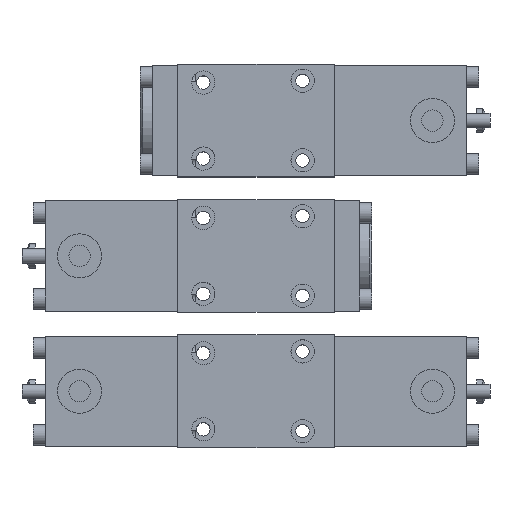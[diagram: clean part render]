
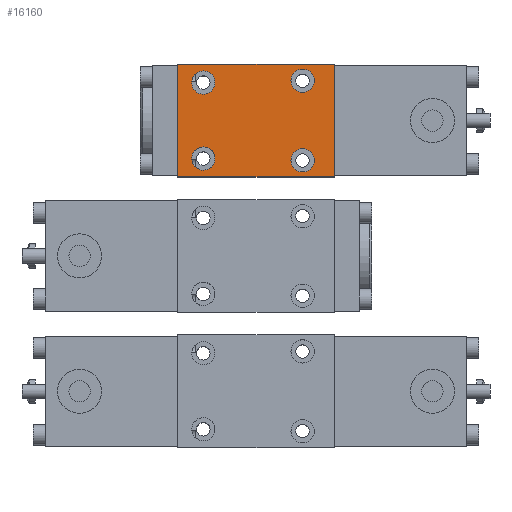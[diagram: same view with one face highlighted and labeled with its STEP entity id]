
A CAD part, top view. The second image highlights one B-rep face of the part: STEP entity #16160.
In plain terms, the highlighted planar face has unit normal (0, 0, 1).
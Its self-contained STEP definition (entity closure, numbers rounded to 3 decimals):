
#16160=ADVANCED_FACE('', (#16170,#16180,#16190,#16200,#16210), #16220, 
.T.);
#52620=AXIS2_PLACEMENT_3D('Ax2Pl3d', #52630, #52640, #52650);
#52660=AXIS2_PLACEMENT_3D('Ax2Pl3d', #52670, #52680, #52690);
#52700=AXIS2_PLACEMENT_3D('Ax2Pl3d', #52710, #52720, #52730);
#52740=AXIS2_PLACEMENT_3D('Ax2Pl3d', #52750, #52760, #52770);
#52780=AXIS2_PLACEMENT_3D('Ax2Pl3d', #52790, #52800, #52810);
#52630=CARTESIAN_POINT('HicPkt', (10.5,117.5,326.));
#81790=CARTESIAN_POINT('', (10.5,122.25,326.));
#52670=CARTESIAN_POINT('HicPkt', (0.,156.,326.));
#81820=CARTESIAN_POINT('', (0.,110.,326.));
#81830=CARTESIAN_POINT('', (0.,156.,326.));
#81840=CARTESIAN_POINT('', (0.,110.,326.));
#81850=CARTESIAN_POINT('', (64.,110.,326.));
#81860=CARTESIAN_POINT('', (64.,110.,326.));
#81870=CARTESIAN_POINT('', (64.,156.,326.));
#81880=CARTESIAN_POINT('', (64.,156.,326.));
#81890=CARTESIAN_POINT('', (0.,156.,326.));
#52710=CARTESIAN_POINT('HicPkt', (10.5,148.5,326.));
#81900=CARTESIAN_POINT('', (10.5,153.25,326.));
#52750=CARTESIAN_POINT('HicPkt', (51.,116.75,326.));
#81910=CARTESIAN_POINT('', (51.,121.5,326.));
#52790=CARTESIAN_POINT('HicPkt', (51.,149.25,326.));
#81920=CARTESIAN_POINT('', (51.,154.,326.));
#88480=CIRCLE('Circle', #52620, 4.75);
#88490=CIRCLE('Circle', #52700, 4.75);
#88500=CIRCLE('Circle', #52740, 4.75);
#88510=CIRCLE('Circle', #52780, 4.75);
#52640=DIRECTION('Axis', (0.,0.,1.));
#52650=DIRECTION('RefDirection', (1.,0.,0.));
#52680=DIRECTION('Axis', (0.,0.,1.));
#52690=DIRECTION('RefDirection', (1.,0.,0.));
#133710=DIRECTION('', (0.,-1.,0.));
#133720=DIRECTION('', (1.,0.,0.));
#133730=DIRECTION('', (0.,1.,0.));
#133740=DIRECTION('', (-1.,0.,0.));
#52720=DIRECTION('Axis', (0.,0.,1.));
#52730=DIRECTION('RefDirection', (1.,0.,0.));
#52760=DIRECTION('Axis', (0.,0.,1.));
#52770=DIRECTION('RefDirection', (1.,0.,0.));
#52800=DIRECTION('Axis', (0.,0.,1.));
#52810=DIRECTION('RefDirection', (1.,0.,0.));
#153730=EDGE_CURVE('', #153740, #153740, #88480, .T.);
#153790=EDGE_CURVE('', #153800, #153810, #153820, .T.);
#153830=EDGE_CURVE('', #153810, #153840, #153850, .T.);
#153860=EDGE_CURVE('', #153840, #153870, #153880, .T.);
#153890=EDGE_CURVE('', #153870, #153800, #153900, .T.);
#153910=EDGE_CURVE('', #153920, #153920, #88490, .T.);
#153930=EDGE_CURVE('', #153940, #153940, #88500, .T.);
#153950=EDGE_CURVE('', #153960, #153960, #88510, .T.);
#182360=EDGE_LOOP('Edge_loop', (#182370,#182380,#182390,#182400));
#182410=EDGE_LOOP('Edge_loop', (#182420));
#182430=EDGE_LOOP('Edge_loop', (#182440));
#182450=EDGE_LOOP('Edge_loop', (#182460));
#182470=EDGE_LOOP('Edge_loop', (#182480));
#16180=FACE_BOUND('', #182410, .T.);
#16190=FACE_BOUND('', #182430, .T.);
#16200=FACE_BOUND('', #182450, .T.);
#16210=FACE_BOUND('', #182470, .T.);
#16170=FACE_OUTER_BOUND('Face_outer_bound', #182360, .T.);
#153820=LINE('Line', #81820, #210990);
#153850=LINE('Line', #81850, #211000);
#153880=LINE('Line', #81870, #211010);
#153900=LINE('Line', #81890, #211020);
#182370=ORIENTED_EDGE('', *, *, #153790, .T.);
#182380=ORIENTED_EDGE('', *, *, #153830, .T.);
#182390=ORIENTED_EDGE('', *, *, #153860, .T.);
#182400=ORIENTED_EDGE('', *, *, #153890, .T.);
#182420=ORIENTED_EDGE('', *, *, #153730, .F.);
#182440=ORIENTED_EDGE('', *, *, #153910, .F.);
#182460=ORIENTED_EDGE('', *, *, #153930, .F.);
#182480=ORIENTED_EDGE('', *, *, #153950, .F.);
#16220=PLANE('Plane', #52660);
#210990=VECTOR('', #133710, 46.);
#211000=VECTOR('', #133720, 64.);
#211010=VECTOR('', #133730, 46.);
#211020=VECTOR('', #133740, 64.);
#153740=VERTEX_POINT('', #81790);
#153800=VERTEX_POINT('', #81830);
#153810=VERTEX_POINT('', #81840);
#153840=VERTEX_POINT('', #81860);
#153870=VERTEX_POINT('', #81880);
#153920=VERTEX_POINT('', #81900);
#153940=VERTEX_POINT('', #81910);
#153960=VERTEX_POINT('', #81920);
